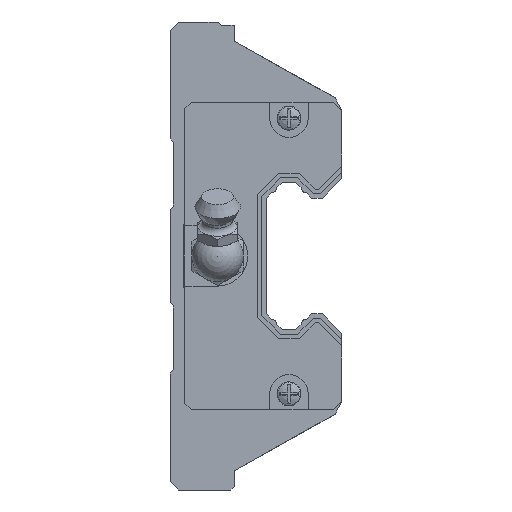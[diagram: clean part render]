
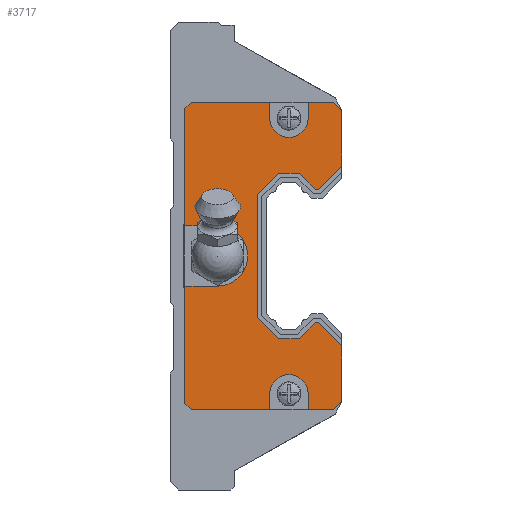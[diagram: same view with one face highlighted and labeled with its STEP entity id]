
A CAD part, left-side view. The second image highlights one B-rep face of the part: STEP entity #3717.
In plain terms, the highlighted planar face has unit normal (-1, 0, 0) as drawn and (1, 0, 0) by its records, which use the part's own axes.
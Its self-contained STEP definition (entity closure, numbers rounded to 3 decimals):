
#3282 = EDGE_CURVE('',#3283,#3285,#3287,.T.);
#3283 = VERTEX_POINT('',#3284);
#3284 = CARTESIAN_POINT('',(3.,17.46,-24.));
#3285 = VERTEX_POINT('',#3286);
#3286 = CARTESIAN_POINT('',(3.,17.46,-21.5));
#3287 = LINE('',#3288,#3289);
#3288 = CARTESIAN_POINT('',(3.,17.46,0.));
#3289 = VECTOR('',#3290,1.);
#3290 = DIRECTION('',(0.,0.,1.));
#3333 = VERTEX_POINT('',#3334);
#3334 = CARTESIAN_POINT('',(3.,11.46,-21.5));
#3340 = EDGE_CURVE('',#3285,#3333,#3341,.T.);
#3341 = CIRCLE('',#3342,3.);
#3342 = AXIS2_PLACEMENT_3D('',#3343,#3344,#3345);
#3343 = CARTESIAN_POINT('',(3.,14.46,-21.5));
#3344 = DIRECTION('',(1.,0.,0.));
#3345 = DIRECTION('',(0.,0.,-1.));
#3669 = VERTEX_POINT('',#3670);
#3670 = CARTESIAN_POINT('',(3.,6.2,14.027));
#3676 = EDGE_CURVE('',#3677,#3669,#3679,.T.);
#3677 = VERTEX_POINT('',#3678);
#3678 = CARTESIAN_POINT('',(3.,6.2,22.66));
#3679 = LINE('',#3680,#3681);
#3680 = CARTESIAN_POINT('',(3.,6.2,22.66));
#3681 = VECTOR('',#3682,1.);
#3682 = DIRECTION('',(0.,0.,-1.));
#3717 = ADVANCED_FACE('',(#3718),#3953,.T.);
#3718 = FACE_BOUND('',#3719,.T.);
#3719 = EDGE_LOOP('',(#3720,#3728,#3736,#3744,#3752,#3760,#3768,#3776,
    #3784,#3792,#3800,#3808,#3816,#3824,#3832,#3838,#3839,#3840,#3848,
    #3856,#3864,#3872,#3881,#3889,#3897,#3905,#3913,#3921,#3930,#3938,
    #3946,#3952));
#3720 = ORIENTED_EDGE('',*,*,#3721,.F.);
#3721 = EDGE_CURVE('',#3722,#3669,#3724,.T.);
#3722 = VERTEX_POINT('',#3723);
#3723 = CARTESIAN_POINT('',(3.,9.825,10.402));
#3724 = LINE('',#3725,#3726);
#3725 = CARTESIAN_POINT('',(3.,9.825,10.402));
#3726 = VECTOR('',#3727,1.);
#3727 = DIRECTION('',(0.,-0.707,0.707));
#3728 = ORIENTED_EDGE('',*,*,#3729,.F.);
#3729 = EDGE_CURVE('',#3730,#3722,#3732,.T.);
#3730 = VERTEX_POINT('',#3731);
#3731 = CARTESIAN_POINT('',(3.,10.348,10.402));
#3732 = LINE('',#3733,#3734);
#3733 = CARTESIAN_POINT('',(3.,10.348,10.402));
#3734 = VECTOR('',#3735,1.);
#3735 = DIRECTION('',(0.,-1.,0.));
#3736 = ORIENTED_EDGE('',*,*,#3737,.F.);
#3737 = EDGE_CURVE('',#3738,#3730,#3740,.T.);
#3738 = VERTEX_POINT('',#3739);
#3739 = CARTESIAN_POINT('',(3.,12.826,12.88));
#3740 = LINE('',#3741,#3742);
#3741 = CARTESIAN_POINT('',(3.,12.826,12.88));
#3742 = VECTOR('',#3743,1.);
#3743 = DIRECTION('',(0.,-0.707,-0.707));
#3744 = ORIENTED_EDGE('',*,*,#3745,.F.);
#3745 = EDGE_CURVE('',#3746,#3738,#3748,.T.);
#3746 = VERTEX_POINT('',#3747);
#3747 = CARTESIAN_POINT('',(3.,16.094,12.88));
#3748 = LINE('',#3749,#3750);
#3749 = CARTESIAN_POINT('',(3.,16.094,12.88));
#3750 = VECTOR('',#3751,1.);
#3751 = DIRECTION('',(0.,-1.,0.));
#3752 = ORIENTED_EDGE('',*,*,#3753,.F.);
#3753 = EDGE_CURVE('',#3754,#3746,#3756,.T.);
#3754 = VERTEX_POINT('',#3755);
#3755 = CARTESIAN_POINT('',(3.,19.38,9.594));
#3756 = LINE('',#3757,#3758);
#3757 = CARTESIAN_POINT('',(3.,19.38,9.594));
#3758 = VECTOR('',#3759,1.);
#3759 = DIRECTION('',(0.,-0.707,0.707));
#3760 = ORIENTED_EDGE('',*,*,#3761,.F.);
#3761 = EDGE_CURVE('',#3762,#3754,#3764,.T.);
#3762 = VERTEX_POINT('',#3763);
#3763 = CARTESIAN_POINT('',(3.,19.38,-9.594));
#3764 = LINE('',#3765,#3766);
#3765 = CARTESIAN_POINT('',(3.,19.38,-9.594));
#3766 = VECTOR('',#3767,1.);
#3767 = DIRECTION('',(0.,0.,1.));
#3768 = ORIENTED_EDGE('',*,*,#3769,.F.);
#3769 = EDGE_CURVE('',#3770,#3762,#3772,.T.);
#3770 = VERTEX_POINT('',#3771);
#3771 = CARTESIAN_POINT('',(3.,16.094,-12.88));
#3772 = LINE('',#3773,#3774);
#3773 = CARTESIAN_POINT('',(3.,16.094,-12.88));
#3774 = VECTOR('',#3775,1.);
#3775 = DIRECTION('',(0.,0.707,0.707));
#3776 = ORIENTED_EDGE('',*,*,#3777,.F.);
#3777 = EDGE_CURVE('',#3778,#3770,#3780,.T.);
#3778 = VERTEX_POINT('',#3779);
#3779 = CARTESIAN_POINT('',(3.,12.826,-12.88));
#3780 = LINE('',#3781,#3782);
#3781 = CARTESIAN_POINT('',(3.,12.826,-12.88));
#3782 = VECTOR('',#3783,1.);
#3783 = DIRECTION('',(0.,1.,0.));
#3784 = ORIENTED_EDGE('',*,*,#3785,.F.);
#3785 = EDGE_CURVE('',#3786,#3778,#3788,.T.);
#3786 = VERTEX_POINT('',#3787);
#3787 = CARTESIAN_POINT('',(3.,10.348,-10.402));
#3788 = LINE('',#3789,#3790);
#3789 = CARTESIAN_POINT('',(3.,10.348,-10.402));
#3790 = VECTOR('',#3791,1.);
#3791 = DIRECTION('',(0.,0.707,-0.707));
#3792 = ORIENTED_EDGE('',*,*,#3793,.F.);
#3793 = EDGE_CURVE('',#3794,#3786,#3796,.T.);
#3794 = VERTEX_POINT('',#3795);
#3795 = CARTESIAN_POINT('',(3.,9.825,-10.402));
#3796 = LINE('',#3797,#3798);
#3797 = CARTESIAN_POINT('',(3.,9.825,-10.402));
#3798 = VECTOR('',#3799,1.);
#3799 = DIRECTION('',(0.,1.,0.));
#3800 = ORIENTED_EDGE('',*,*,#3801,.F.);
#3801 = EDGE_CURVE('',#3802,#3794,#3804,.T.);
#3802 = VERTEX_POINT('',#3803);
#3803 = CARTESIAN_POINT('',(3.,6.2,-14.027));
#3804 = LINE('',#3805,#3806);
#3805 = CARTESIAN_POINT('',(3.,6.2,-14.027));
#3806 = VECTOR('',#3807,1.);
#3807 = DIRECTION('',(0.,0.707,0.707));
#3808 = ORIENTED_EDGE('',*,*,#3809,.T.);
#3809 = EDGE_CURVE('',#3802,#3810,#3812,.T.);
#3810 = VERTEX_POINT('',#3811);
#3811 = CARTESIAN_POINT('',(3.,6.2,-22.66));
#3812 = LINE('',#3813,#3814);
#3813 = CARTESIAN_POINT('',(3.,6.2,22.66));
#3814 = VECTOR('',#3815,1.);
#3815 = DIRECTION('',(0.,0.,-1.));
#3816 = ORIENTED_EDGE('',*,*,#3817,.T.);
#3817 = EDGE_CURVE('',#3810,#3818,#3820,.T.);
#3818 = VERTEX_POINT('',#3819);
#3819 = CARTESIAN_POINT('',(3.,7.54,-24.));
#3820 = LINE('',#3821,#3822);
#3821 = CARTESIAN_POINT('',(3.,6.2,-22.66));
#3822 = VECTOR('',#3823,1.);
#3823 = DIRECTION('',(0.,0.707,-0.707));
#3824 = ORIENTED_EDGE('',*,*,#3825,.T.);
#3825 = EDGE_CURVE('',#3818,#3826,#3828,.T.);
#3826 = VERTEX_POINT('',#3827);
#3827 = CARTESIAN_POINT('',(3.,11.46,-24.));
#3828 = LINE('',#3829,#3830);
#3829 = CARTESIAN_POINT('',(3.,7.54,-24.));
#3830 = VECTOR('',#3831,1.);
#3831 = DIRECTION('',(0.,1.,0.));
#3832 = ORIENTED_EDGE('',*,*,#3833,.F.);
#3833 = EDGE_CURVE('',#3333,#3826,#3834,.T.);
#3834 = LINE('',#3835,#3836);
#3835 = CARTESIAN_POINT('',(3.,11.46,-21.5));
#3836 = VECTOR('',#3837,1.);
#3837 = DIRECTION('',(0.,0.,-1.));
#3838 = ORIENTED_EDGE('',*,*,#3340,.F.);
#3839 = ORIENTED_EDGE('',*,*,#3282,.F.);
#3840 = ORIENTED_EDGE('',*,*,#3841,.T.);
#3841 = EDGE_CURVE('',#3283,#3842,#3844,.T.);
#3842 = VERTEX_POINT('',#3843);
#3843 = CARTESIAN_POINT('',(3.,29.7,-24.));
#3844 = LINE('',#3845,#3846);
#3845 = CARTESIAN_POINT('',(3.,7.54,-24.));
#3846 = VECTOR('',#3847,1.);
#3847 = DIRECTION('',(0.,1.,0.));
#3848 = ORIENTED_EDGE('',*,*,#3849,.T.);
#3849 = EDGE_CURVE('',#3842,#3850,#3852,.T.);
#3850 = VERTEX_POINT('',#3851);
#3851 = CARTESIAN_POINT('',(3.,30.7,-23.));
#3852 = LINE('',#3853,#3854);
#3853 = CARTESIAN_POINT('',(3.,29.7,-24.));
#3854 = VECTOR('',#3855,1.);
#3855 = DIRECTION('',(0.,0.707,0.707));
#3856 = ORIENTED_EDGE('',*,*,#3857,.T.);
#3857 = EDGE_CURVE('',#3850,#3858,#3860,.T.);
#3858 = VERTEX_POINT('',#3859);
#3859 = CARTESIAN_POINT('',(3.,30.7,-4.7));
#3860 = LINE('',#3861,#3862);
#3861 = CARTESIAN_POINT('',(3.,30.7,-23.));
#3862 = VECTOR('',#3863,1.);
#3863 = DIRECTION('',(0.,0.,1.));
#3864 = ORIENTED_EDGE('',*,*,#3865,.F.);
#3865 = EDGE_CURVE('',#3866,#3858,#3868,.T.);
#3866 = VERTEX_POINT('',#3867);
#3867 = CARTESIAN_POINT('',(3.,25.6,-4.7));
#3868 = LINE('',#3869,#3870);
#3869 = CARTESIAN_POINT('',(3.,25.6,-4.7));
#3870 = VECTOR('',#3871,1.);
#3871 = DIRECTION('',(0.,1.,0.));
#3872 = ORIENTED_EDGE('',*,*,#3873,.F.);
#3873 = EDGE_CURVE('',#3874,#3866,#3876,.T.);
#3874 = VERTEX_POINT('',#3875);
#3875 = CARTESIAN_POINT('',(3.,25.6,4.7));
#3876 = CIRCLE('',#3877,4.7);
#3877 = AXIS2_PLACEMENT_3D('',#3878,#3879,#3880);
#3878 = CARTESIAN_POINT('',(3.,25.6,0.));
#3879 = DIRECTION('',(1.,0.,0.));
#3880 = DIRECTION('',(0.,0.,-1.));
#3881 = ORIENTED_EDGE('',*,*,#3882,.F.);
#3882 = EDGE_CURVE('',#3883,#3874,#3885,.T.);
#3883 = VERTEX_POINT('',#3884);
#3884 = CARTESIAN_POINT('',(3.,30.7,4.7));
#3885 = LINE('',#3886,#3887);
#3886 = CARTESIAN_POINT('',(3.,30.7,4.7));
#3887 = VECTOR('',#3888,1.);
#3888 = DIRECTION('',(0.,-1.,0.));
#3889 = ORIENTED_EDGE('',*,*,#3890,.T.);
#3890 = EDGE_CURVE('',#3883,#3891,#3893,.T.);
#3891 = VERTEX_POINT('',#3892);
#3892 = CARTESIAN_POINT('',(3.,30.7,23.));
#3893 = LINE('',#3894,#3895);
#3894 = CARTESIAN_POINT('',(3.,30.7,-23.));
#3895 = VECTOR('',#3896,1.);
#3896 = DIRECTION('',(0.,0.,1.));
#3897 = ORIENTED_EDGE('',*,*,#3898,.T.);
#3898 = EDGE_CURVE('',#3891,#3899,#3901,.T.);
#3899 = VERTEX_POINT('',#3900);
#3900 = CARTESIAN_POINT('',(3.,29.7,24.));
#3901 = LINE('',#3902,#3903);
#3902 = CARTESIAN_POINT('',(3.,30.7,23.));
#3903 = VECTOR('',#3904,1.);
#3904 = DIRECTION('',(0.,-0.707,0.707));
#3905 = ORIENTED_EDGE('',*,*,#3906,.T.);
#3906 = EDGE_CURVE('',#3899,#3907,#3909,.T.);
#3907 = VERTEX_POINT('',#3908);
#3908 = CARTESIAN_POINT('',(3.,17.46,24.));
#3909 = LINE('',#3910,#3911);
#3910 = CARTESIAN_POINT('',(3.,29.7,24.));
#3911 = VECTOR('',#3912,1.);
#3912 = DIRECTION('',(0.,-1.,0.));
#3913 = ORIENTED_EDGE('',*,*,#3914,.F.);
#3914 = EDGE_CURVE('',#3915,#3907,#3917,.T.);
#3915 = VERTEX_POINT('',#3916);
#3916 = CARTESIAN_POINT('',(3.,17.46,21.5));
#3917 = LINE('',#3918,#3919);
#3918 = CARTESIAN_POINT('',(3.,17.46,21.5));
#3919 = VECTOR('',#3920,1.);
#3920 = DIRECTION('',(0.,0.,1.));
#3921 = ORIENTED_EDGE('',*,*,#3922,.F.);
#3922 = EDGE_CURVE('',#3923,#3915,#3925,.T.);
#3923 = VERTEX_POINT('',#3924);
#3924 = CARTESIAN_POINT('',(3.,11.46,21.5));
#3925 = CIRCLE('',#3926,3.);
#3926 = AXIS2_PLACEMENT_3D('',#3927,#3928,#3929);
#3927 = CARTESIAN_POINT('',(3.,14.46,21.5));
#3928 = DIRECTION('',(1.,0.,0.));
#3929 = DIRECTION('',(0.,0.,-1.));
#3930 = ORIENTED_EDGE('',*,*,#3931,.F.);
#3931 = EDGE_CURVE('',#3932,#3923,#3934,.T.);
#3932 = VERTEX_POINT('',#3933);
#3933 = CARTESIAN_POINT('',(3.,11.46,24.));
#3934 = LINE('',#3935,#3936);
#3935 = CARTESIAN_POINT('',(3.,11.46,24.));
#3936 = VECTOR('',#3937,1.);
#3937 = DIRECTION('',(0.,0.,-1.));
#3938 = ORIENTED_EDGE('',*,*,#3939,.T.);
#3939 = EDGE_CURVE('',#3932,#3940,#3942,.T.);
#3940 = VERTEX_POINT('',#3941);
#3941 = CARTESIAN_POINT('',(3.,7.54,24.));
#3942 = LINE('',#3943,#3944);
#3943 = CARTESIAN_POINT('',(3.,29.7,24.));
#3944 = VECTOR('',#3945,1.);
#3945 = DIRECTION('',(0.,-1.,0.));
#3946 = ORIENTED_EDGE('',*,*,#3947,.T.);
#3947 = EDGE_CURVE('',#3940,#3677,#3948,.T.);
#3948 = LINE('',#3949,#3950);
#3949 = CARTESIAN_POINT('',(3.,7.54,24.));
#3950 = VECTOR('',#3951,1.);
#3951 = DIRECTION('',(0.,-0.707,-0.707));
#3952 = ORIENTED_EDGE('',*,*,#3676,.T.);
#3953 = PLANE('',#3954);
#3954 = AXIS2_PLACEMENT_3D('',#3955,#3956,#3957);
#3955 = CARTESIAN_POINT('',(3.,0.,0.));
#3956 = DIRECTION('',(1.,0.,0.));
#3957 = DIRECTION('',(0.,0.,1.));
